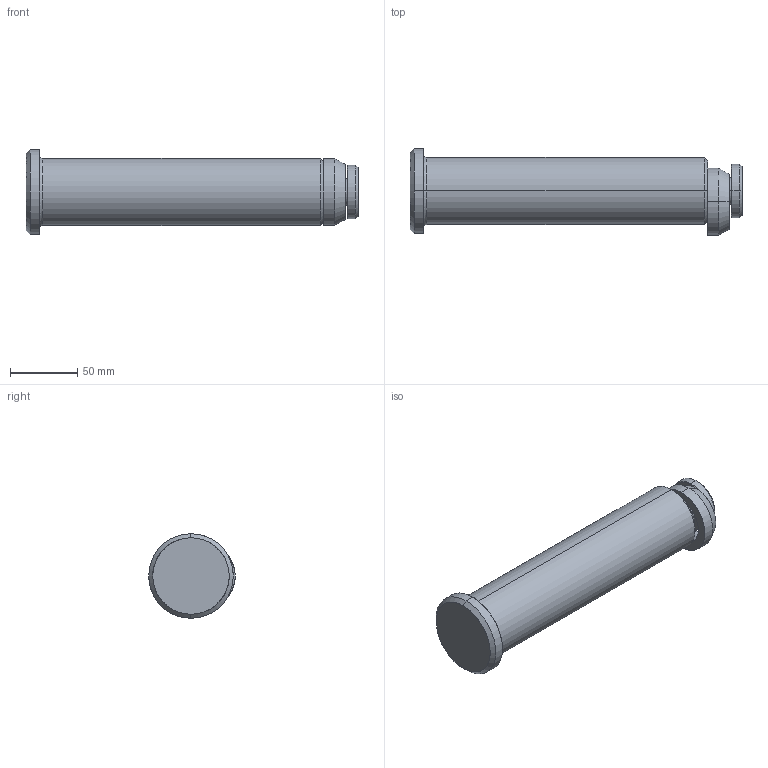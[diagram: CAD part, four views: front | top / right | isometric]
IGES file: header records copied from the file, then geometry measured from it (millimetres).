
Start section: START RECORD GO HERE.
Global section: file name: 395C-050-212.igs; native system: DASSAULT SYSTEMES CATIA V5 R20 - www.3ds.com; preprocessor: CATIA Version 5 Release 20 ; author: Utente; organization: NB04-ASUS; date: 20200409.145822; units: millimetre
Bounding box: 247.6 x 64.5 x 63 mm (x, y, z)
Surface area: 51321.5 mm2 (no closed solid volume)
Topology: 0 solids, 0 shells, 34 faces, 132 edges, 132 vertices
Faces by surface type: revolution 26, extrusion 8
